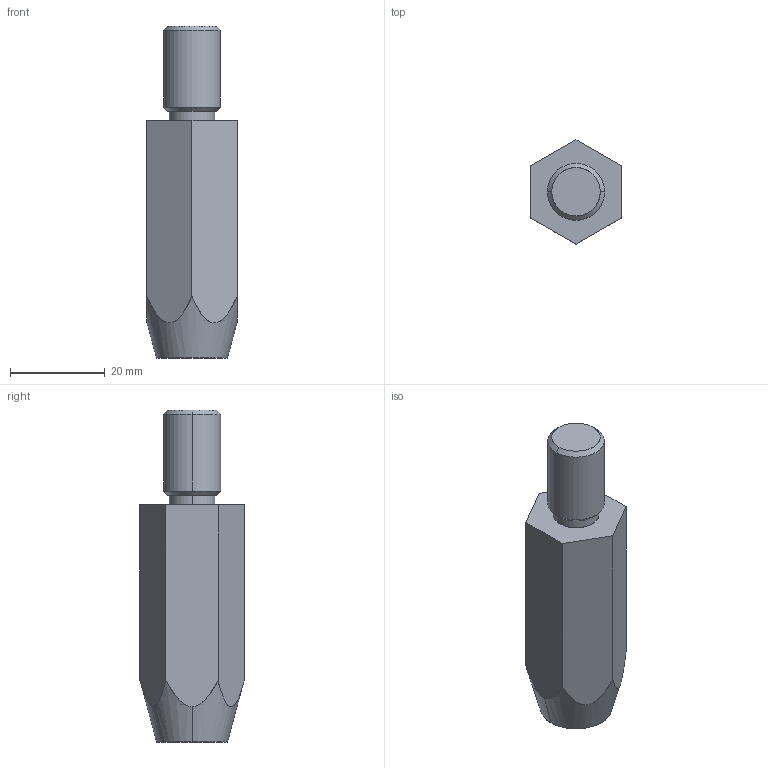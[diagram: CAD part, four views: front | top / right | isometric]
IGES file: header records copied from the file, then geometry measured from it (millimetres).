
Start section: SolidWorks IGES FILE using analytic representation for surfaces
Global section: file name: C:\WIX2\Positioning\3600\3600W122.igs; native system: SolidWorks 2003 by SolidWorks Corporation; preprocessor: Version 5.3; author: Joan; date: 030722.164505; units: millimetre
Bounding box: 19 x 21.94 x 70 mm (x, y, z)
Surface area: 4468.8 mm2 (no closed solid volume)
Topology: 0 solids, 0 shells, 20 faces, 334 edges, 334 vertices
Faces by surface type: revolution 10, bspline 10
